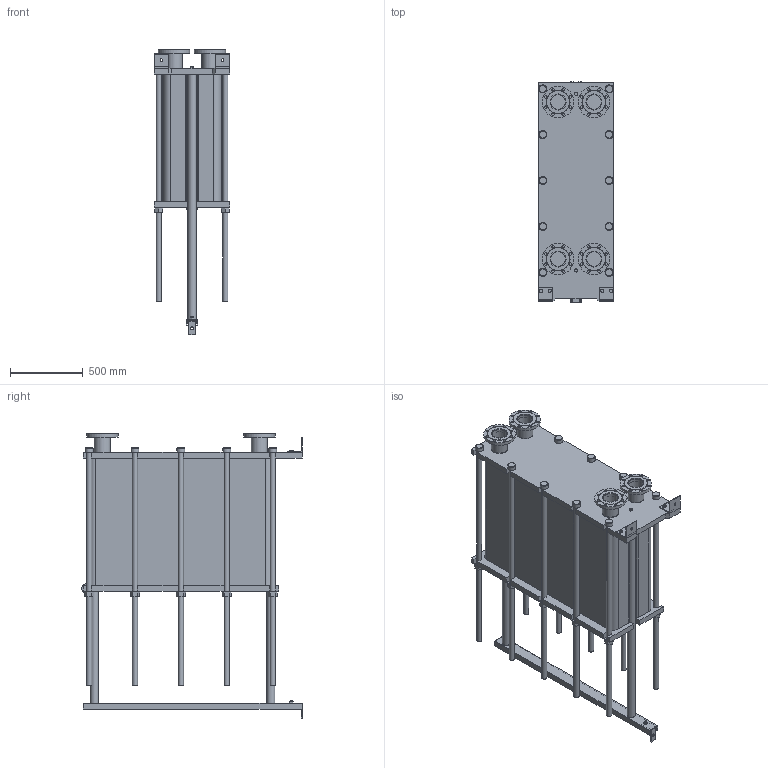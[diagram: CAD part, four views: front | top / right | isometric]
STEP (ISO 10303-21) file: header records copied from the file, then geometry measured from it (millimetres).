
FILE_DESCRIPTION(/* description */ (''),/* implementation_level */ '2;1');
FILE_NAME(/* name */ 'C:\Users\zhuro\Desktop\ENCO\TO\ЭН-04\ЭН-0,5-04-253-1.stp',/* time_stamp */ '2022-06-06T11:06:57+03:00',/* author */ ('zhuro'),/* organization */ (''),/* preprocessor_version */ 'ST-DEVELOPER v18.1',/* originating_system */ 'Autodesk Inventor 2022',/* authorisation */ '');
FILE_SCHEMA (('AUTOMOTIVE_DESIGN { 1 0 10303 214 3 1 1 }'));
Length unit declared in the file: millimetre
Products named in the file (1): ЭН-0,5-04-253-1
Bounding box: 520 x 1510 x 1956.5 mm (x, y, z)
Volume: 515654166.6 mm3; surface area: 11719746.4 mm2
Topology: 45 solids, 45 shells, 668 faces, 1611 edges, 1048 vertices
Faces by surface type: plane 457, cylinder 166, cone 39, torus 6
Full cylindrical faces by diameter (mm): 8 x4, 10 x2, 16 x8, 18 x35, 36 x25, 40 x2, 42 x1, 45 x4, 54 x10, 57 x2, 60 x10, 68 x2, 100 x4, 110 x8, 215 x4
Entity records: 23607 total; most frequent: CARTESIAN_POINT 7348, DIRECTION 3371, ORIENTED_EDGE 3142, EDGE_CURVE 1571, AXIS2_PLACEMENT_3D 1199, VERTEX_POINT 1044, LINE 973, VECTOR 973
